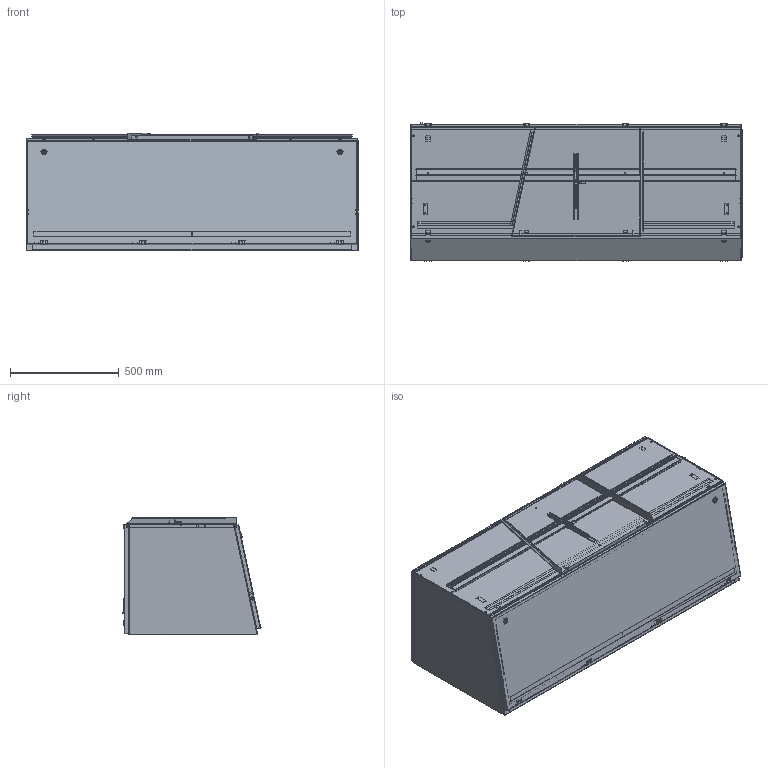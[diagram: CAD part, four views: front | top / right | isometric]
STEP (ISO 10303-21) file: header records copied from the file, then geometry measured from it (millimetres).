
FILE_DESCRIPTION( ( 'Unknown' ), '1' );
FILE_NAME( 'Q:/2000 SERIES/TURRET UNITS/WEB DRAWINGS/STEP/2CST206043.stp', 'Unknown', ( 'Unknown' ), ( 'Unknown' ), 'XStep 1.0', 'Unknown', ' ' );
FILE_SCHEMA( ( 'CONFIG_CONTROL_DESIGN' ) );
Length unit declared in the file: millimetre
Products named in the file (48): Assem1; Assem2; Assem3; Assem4; Assem5; Assem6; Assem7; Assem8; Assem9; Assem10; Assem11; Assem12; 1; 2; 3; 4; 5; 6; 7; 8; 9; 10; 11; 12; 13; 14; 15; 16; 17; 18; 19; 20; 21; 22; 23; 24; 25; 26; 27; 28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
Bounding box: 1524 x 634.18 x 538.94 mm (x, y, z)
Volume: 22269013.5 mm3; surface area: 24497439.8 mm2
Topology: 182 solids, 182 shells, 4075 faces, 9935 edges, 6368 vertices
Faces by surface type: plane 2681, cylinder 1096, bspline 226, cone 41, torus 21, sphere 10
Full cylindrical faces by diameter (mm): 3.175 x20, 4.763 x23, 4.826 x6, 5 x16, 5.537 x10, 5.969 x10, 6 x6, 6.096 x10, 6.299 x5, 6.35 x60, 7.137 x22, 7.925 x5, 7.938 x40, 8.331 x5, 9.804 x5, 9.83 x12, 9.931 x9, 10.312 x5, 11.1 x5, 12.7 x22, 12.751 x5, 13.335 x6, 15.875 x6, 16.002 x6, 19.5 x6, 19.939 x6, 25.4 x6
Entity records: 31448 total; most frequent: CARTESIAN_POINT 7447, DIRECTION 4420, ORIENTED_EDGE 4400, EDGE_CURVE 2200, LINE 1568, VECTOR 1568, VERTEX_POINT 1441, AXIS2_PLACEMENT_3D 1426
